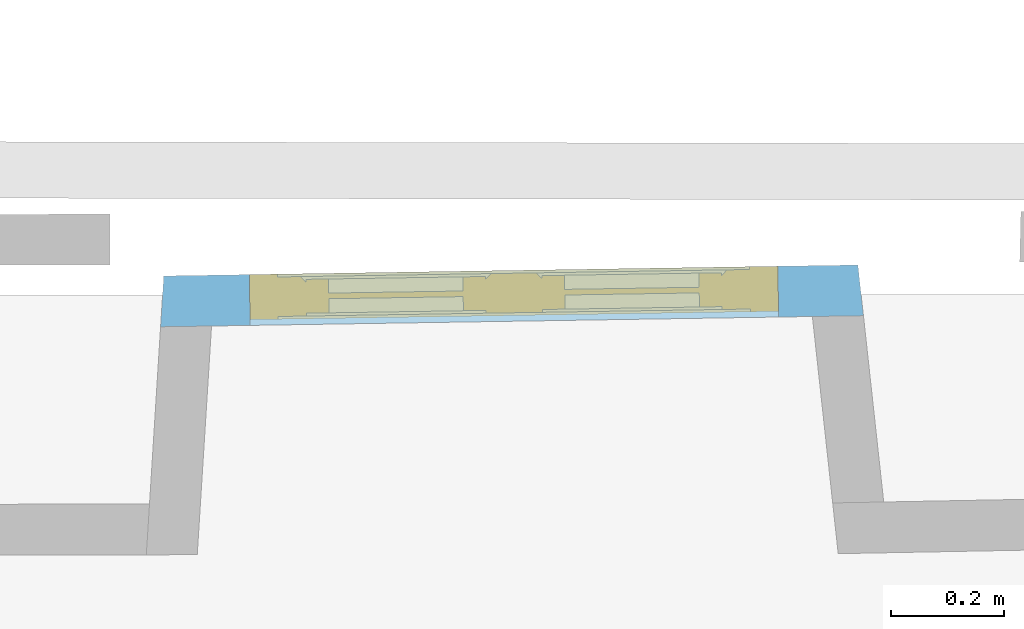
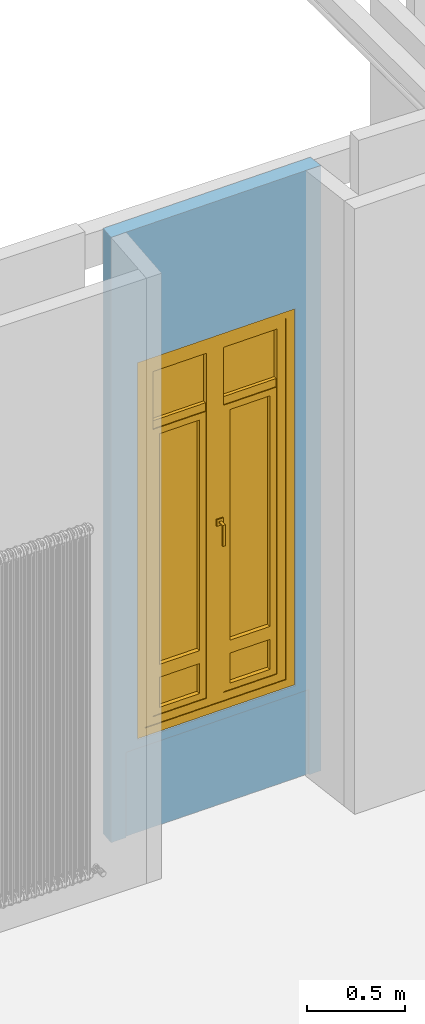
# One storey, part 46 of 66: 1 window, 2 openings, plus 1 element that does not belong to this part.
"""IFC2X3 building model written with IfcOpenShell, lengths in centimetres."""

import ifcopenshell
import ifcopenshell.guid

model = None  # the IFC model being written
_history = None  # IfcOwnerHistory: only IFC2X3 demands one
_inside = {}  # id of a spatial element -> (the spatial element, [elements in it])
_under = {}  # id of a project, library or spatial element -> (it, [spatial elements below it])
_declared = {}  # id of a project -> (the project, [libraries it declares])
_typed = {}  # id of a type object -> (the type object, [elements of that type])
_made_of = {}  # id of a material, layer set ... -> (it, [elements and type objects made of it])


def new_model(schema):
    """Start an empty IFC model of exactly this schema.

    Asked for "IFC4X3", IfcOpenShell would pick the latest addendum, in which some entities
    have other attributes; the version numbers below select the first issue.
    IFC2X3 requires an IfcOwnerHistory on every rooted entity: one is made here for all.
    """
    global model, _history
    if schema == "IFC4X3":
        model = ifcopenshell.file(schema_version=(4, 3, 0, 0))
    else:
        model = ifcopenshell.file(schema=schema)
    _inside.clear()
    _under.clear()
    _declared.clear()
    _typed.clear()
    _made_of.clear()
    _history = None
    if model.schema == "IFC2X3":
        org = make("IfcOrganization", Name="unknown")
        user = make(
            "IfcPersonAndOrganization",
            ThePerson=make("IfcPerson", FamilyName="unknown"),
            TheOrganization=org,
        )
        app = make(
            "IfcApplication",
            ApplicationDeveloper=org,
            Version="unknown",
            ApplicationFullName="unknown",
            ApplicationIdentifier="unknown",
        )
        _history = make(
            "IfcOwnerHistory",
            OwningUser=user,
            OwningApplication=app,
            ChangeAction="ADDED",
            CreationDate=0,
        )
    return model


def make(cls, **values):
    """One entity of the class cls with the attributes given. An attribute that is None is left unset."""
    return model.create_entity(
        cls, **{name: value for name, value in values.items() if value is not None}
    )


def entity(cls, *values):
    """Any entity or typed value of the class cls, its attributes in the order of the schema. None: left unset."""
    e = model.create_entity(cls)
    for i, value in enumerate(values):
        if value is not None:
            e[i] = value
    return e


def rooted(cls, **values):
    """An entity with a GlobalId (a new one), such as an element, a storey or a relation."""
    return make(cls, GlobalId=ifcopenshell.guid.new(), OwnerHistory=_history, **values)


def si_unit(unit_type, name, prefix=None):
    """IfcSIUnit, for example si_unit("LENGTHUNIT", "METRE", prefix="MILLI")."""
    return make("IfcSIUnit", UnitType=unit_type, Prefix=prefix, Name=name)


def converted_unit(unit_type, name, factor, base, dimensions=None, offset=None):
    """IfcConversionBasedUnit, such as the inch: factor (a typed value) times the base unit."""
    return make(
        "IfcConversionBasedUnit"
        if offset is None
        else "IfcConversionBasedUnitWithOffset",
        ConversionOffset=offset,
        Dimensions=None
        if dimensions is None
        else entity("IfcDimensionalExponents", *dimensions),
        UnitType=unit_type,
        Name=name,
        ConversionFactor=make(
            "IfcMeasureWithUnit", ValueComponent=factor, UnitComponent=base
        ),
    )


def assignment(units):
    """IfcUnitAssignment: the units of a project."""
    return None if units is None else make("IfcUnitAssignment", Units=units)


def point(xyz):
    """IfcCartesianPoint."""
    return None if xyz is None else make("IfcCartesianPoint", Coordinates=xyz)


def direction(xyz):
    """IfcDirection."""
    return None if xyz is None else make("IfcDirection", DirectionRatios=xyz)


def frame(location, z_axis=None, x_axis=None):
    """IfcAxis2Placement3D, a coordinate frame: its origin and axes. An axis left out is left unset."""
    return make(
        "IfcAxis2Placement3D",
        Location=point(location),
        Axis=direction(z_axis),
        RefDirection=direction(x_axis),
    )


def origin():
    """The frame at (0, 0, 0) with its axes left unset."""
    return frame((0.0, 0.0, 0.0))


def origin_with_axes():
    """The frame at (0, 0, 0) with the z axis (0, 0, 1) and the x axis (1, 0, 0) written out."""
    return frame((0.0, 0.0, 0.0), z_axis=(0.0, 0.0, 1.0), x_axis=(1.0, 0.0, 0.0))


def place(relative_to, where):
    """IfcLocalPlacement: puts the frame where relative to a parent placement (None: the world)."""
    return make(
        "IfcLocalPlacement", PlacementRelTo=relative_to, RelativePlacement=where
    )


def context(
    kind, dimensions, precision=None, world=None, true_north=None, identifier=None
):
    """IfcGeometricRepresentationContext, for example the 3D "Model" context."""
    return make(
        "IfcGeometricRepresentationContext",
        ContextIdentifier=identifier,
        ContextType=kind,
        CoordinateSpaceDimension=dimensions,
        Precision=precision,
        WorldCoordinateSystem=world,
        TrueNorth=true_north,
    )


def subcontext(parent, identifier, kind, view, scale=None):
    """IfcGeometricRepresentationSubContext, for example "Body" below "Model"."""
    return make(
        "IfcGeometricRepresentationSubContext",
        ContextIdentifier=identifier,
        ContextType=kind,
        ParentContext=parent,
        TargetScale=scale,
        TargetView=view,
    )


def project(units=None, contexts=None):
    """IfcProject with its units and contexts."""
    return rooted(
        "IfcProject",
        Name="project",
        RepresentationContexts=contexts,
        UnitsInContext=assignment(units),
    )


def spatial(cls, under=None, at=None, **own):
    """A site, building, storey or space (cls), placed at a placement, below another one or the project."""
    s = rooted(cls, ObjectPlacement=at, **own)
    if under is not None:
        _under.setdefault(under.id(), (under, []))[1].append(s)
    return s


def polyline(points):
    """IfcPolyline through the points."""
    return make("IfcPolyline", Points=[point(p) for p in points])


def outline(outer, holes=None, kind="AREA"):
    """IfcArbitraryClosedProfileDef: a profile drawn as a closed curve; with holes, ...WithVoids."""
    if holes is None:
        return make("IfcArbitraryClosedProfileDef", ProfileType=kind, OuterCurve=outer)
    return make(
        "IfcArbitraryProfileDefWithVoids",
        ProfileType=kind,
        OuterCurve=outer,
        InnerCurves=holes,
    )


def extrude(swept, where, along, depth):
    """IfcExtrudedAreaSolid: the profile swept, set in the frame where, extruded along a direction by depth."""
    return make(
        "IfcExtrudedAreaSolid",
        SweptArea=swept,
        Position=where,
        ExtrudedDirection=direction(along),
        Depth=depth,
    )


def faces_of(points, faces, orient=None, outer=None):
    """IfcFace entities. A face is a list of loops; a loop is a list of indices into points, from 0.

    orient and outer hold one flag for each loop. By default every Orientation is true, the
    first loop of a face is its IfcFaceOuterBound and the others are IfcFaceBound.
    """
    made = []
    for i, loops in enumerate(faces):
        bounds = []
        for j, loop in enumerate(loops):
            is_outer = j == 0 if outer is None else outer[i][j]
            bounds.append(
                make(
                    "IfcFaceOuterBound" if is_outer else "IfcFaceBound",
                    Bound=make("IfcPolyLoop", Polygon=[points[k] for k in loop]),
                    Orientation=True if orient is None else orient[i][j],
                )
            )
        made.append(make("IfcFace", Bounds=bounds))
    return made


def faceted_brep(points, faces, orient=None, outer=None, voids=None):
    """IfcFacetedBrep: a solid bounded by flat faces; with voids (closed shells), ...WithVoids."""
    shared = [point(p) for p in points]
    hull = make("IfcClosedShell", CfsFaces=faces_of(shared, faces, orient, outer))
    if voids is None:
        return make("IfcFacetedBrep", Outer=hull)
    return make(
        "IfcFacetedBrepWithVoids",
        Outer=hull,
        Voids=[
            make(cls, CfsFaces=faces_of(shared, fs, o, b)) for cls, fs, o, b in voids
        ],
    )


def shape(context_of_items, identifier, shape_type, items):
    """IfcShapeRepresentation: the items that make up one representation, for example the "Body"."""
    return make(
        "IfcShapeRepresentation",
        ContextOfItems=context_of_items,
        RepresentationIdentifier=identifier,
        RepresentationType=shape_type,
        Items=items,
    )


def source(mapping_origin, context_of_items, identifier, shape_type, items):
    """IfcRepresentationMap: a shape defined once, which mapped items show again and again."""
    return make(
        "IfcRepresentationMap",
        MappingOrigin=mapping_origin,
        MappedRepresentation=shape(context_of_items, identifier, shape_type, items),
    )


def transform(
    local_origin,
    x_axis=None,
    y_axis=None,
    z_axis=None,
    scale=None,
    scale2=None,
    scale3=None,
    uniform=True,
):
    """IfcCartesianTransformationOperator3D, or its non-uniform kind. x_axis, y_axis, z_axis: its Axis1, 2, 3."""
    if uniform:
        return make(
            "IfcCartesianTransformationOperator3D",
            Axis1=direction(x_axis),
            Axis2=direction(y_axis),
            LocalOrigin=point(local_origin),
            Scale=scale,
            Axis3=direction(z_axis),
        )
    return make(
        "IfcCartesianTransformationOperator3DnonUniform",
        Axis1=direction(x_axis),
        Axis2=direction(y_axis),
        LocalOrigin=point(local_origin),
        Scale=scale,
        Axis3=direction(z_axis),
        Scale2=scale2,
        Scale3=scale3,
    )


def mapped(mapping_source, mapping_target):
    """IfcMappedItem: shows the shape of a source again, moved by a transform."""
    return make(
        "IfcMappedItem", MappingSource=mapping_source, MappingTarget=mapping_target
    )


def material(Name=None, Category=None):
    """IfcMaterial."""
    return make("IfcMaterial", Name=Name, Category=Category)


def material_list(materials):
    """IfcMaterialList."""
    return make("IfcMaterialList", Materials=materials)


def layer(
    of_material, thickness, ventilated=None, Name=None, Category=None, Priority=None
):
    """IfcMaterialLayer: one layer of a wall or slab, of a material (None: an air gap)."""
    return make(
        "IfcMaterialLayer",
        Material=of_material,
        LayerThickness=thickness,
        IsVentilated=ventilated,
        Name=Name,
        Category=Category,
        Priority=Priority,
    )


def layer_set(layers, Name=None):
    """IfcMaterialLayerSet."""
    return make("IfcMaterialLayerSet", MaterialLayers=layers, LayerSetName=Name)


def layer_usage(for_layer_set, set_direction, sense, offset, extent=None):
    """IfcMaterialLayerSetUsage: how a layer set lies in its element."""
    return make(
        "IfcMaterialLayerSetUsage",
        ForLayerSet=for_layer_set,
        LayerSetDirection=set_direction,
        DirectionSense=sense,
        OffsetFromReferenceLine=offset,
        ReferenceExtent=extent,
    )


def made_of(thing, what):
    """Note that an element or type object is made of a material, layer set ...; save() writes the relation."""
    if what is not None:
        _made_of.setdefault(what.id(), (what, []))[1].append(thing)
    return thing


def type_object(cls, material=None, **own):
    """A type object (cls), such as IfcWallType, which elements share."""
    return made_of(rooted(cls, **own), material)


def element(
    cls,
    number,
    at=None,
    inside=None,
    cuts=None,
    type_object=None,
    material=None,
    context=None,
    identifier="Body",
    shape_type=None,
    held_by="IfcProductDefinitionShape",
    body=None,
    shapes=None,
    **own,
):
    """One element of the class cls, such as IfcWall. Its Tag is "e" and its number.

    at: its placement. inside: the storey or other place that contains it. cuts: it is an
    opening in that element (IfcRelVoidsElement). A single representation is given by context,
    identifier, shape_type and body (its items); several are given by shapes. held_by: the class
    of the entity that holds the representations. save() writes the other relations.
    """
    e = rooted(cls, Tag="e%d" % number, ObjectPlacement=at, **own)
    if body is not None:
        shapes = [shape(context, identifier, shape_type, body)]
    if shapes is not None:
        e.Representation = make(held_by, Representations=shapes)
    if inside is not None:
        _inside.setdefault(inside.id(), (inside, []))[1].append(e)
    if cuts is not None:
        rooted(
            "IfcRelVoidsElement", RelatingBuildingElement=cuts, RelatedOpeningElement=e
        )
    if type_object is not None:
        _typed.setdefault(type_object.id(), (type_object, []))[1].append(e)
    return made_of(e, material)


def fill(opening, filler):
    """IfcRelFillsElement: the door or window that sits in an opening."""
    return rooted(
        "IfcRelFillsElement",
        RelatingOpeningElement=opening,
        RelatedBuildingElement=filler,
    )


def aggregate(whole, parts):
    """IfcRelAggregates: a whole, such as a stair, and the parts it consists of."""
    return rooted("IfcRelAggregates", RelatingObject=whole, RelatedObjects=parts)


def save(model, path):
    """Write the relations noted so far, then the file.

    IfcRelAggregates (storeys below a building ...), IfcRelContainedInSpatialStructure (elements
    in a storey), IfcRelDefinesByType, IfcRelAssociatesMaterial and IfcRelDeclares: one each for
    every whole, place, type object, material and project.
    """
    for whole, parts in _under.values():
        aggregate(whole, parts)
    for where, things in _inside.values():
        rooted(
            "IfcRelContainedInSpatialStructure",
            RelatedElements=things,
            RelatingStructure=where,
        )
    for kind, things in _typed.values():
        rooted("IfcRelDefinesByType", RelatedObjects=things, RelatingType=kind)
    for what, things in _made_of.values():
        rooted("IfcRelAssociatesMaterial", RelatedObjects=things, RelatingMaterial=what)
    for by, libraries in _declared.values():
        rooted("IfcRelDeclares", RelatingContext=by, RelatedDefinitions=libraries)
    model.write(path)


model = new_model("IFC2X3")

# Units and contexts
model_context = context("Model", 3, precision=0.0001, world=origin(), true_north=direction((0.225632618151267, 0.974212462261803, 0.0)))
body_context = subcontext(model_context, "Body", "Model", "MODEL_VIEW")
footprint_context = subcontext(model_context, "FootPrint", "Model", "MODEL_VIEW")
profile_context = subcontext(model_context, "Profile", "Model", "MODEL_VIEW")
ifc_project = project(units=[si_unit("LENGTHUNIT", "METRE", prefix="CENTI"), si_unit("AREAUNIT", "SQUARE_METRE", prefix="CENTI"), si_unit("VOLUMEUNIT", "CUBIC_METRE", prefix="CENTI"), converted_unit("PLANEANGLEUNIT", "DEGREE", entity("IfcRatioMeasure", 0.0174532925), si_unit("PLANEANGLEUNIT", "RADIAN"), dimensions=[0, 0, 0, 0, 0, 0, 0])], contexts=[model_context])

# Site, building, storey
site_placement = place(None, origin_with_axes())
site = spatial("IfcSite", under=ifc_project, at=site_placement, Name="Default Site", CompositionType="ELEMENT")
building_placement = place(site_placement, origin_with_axes())
building = spatial("IfcBuilding", under=site, at=building_placement, Name="Default Building", CompositionType="ELEMENT")
storey_placement = place(building_placement, frame((0.0, 0.0, 477.795358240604), z_axis=(0.0, 0.0, 1.0), x_axis=(1.0, 0.0, 0.0)))
storey = spatial("IfcBuildingStorey", under=building, at=storey_placement, Name="Niveau 1", CompositionType="ELEMENT", Elevation=477.795358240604)

# Wall, openings, window
ifc_material_1 = material(Name="<aucun>")
ifc_layer = layer(ifc_material_1, 9.0)
ifc_layer_set = layer_set([ifc_layer], Name="default")
ifc_layer_usage = layer_usage(ifc_layer_set, "AXIS2", "POSITIVE", -4.5)
wall_type = type_object("IfcWallType", Name="default 90", PredefinedType="NOTDEFINED", material=ifc_layer_set)
wall_placement = place(storey_placement, frame((28.5653999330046, 593.143177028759, 0.0128503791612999), z_axis=(0.0, 0.0, 1.0), x_axis=(0.999874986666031, 0.0158117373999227, 0.0)))
wall = element("IfcWallStandardCase", 1, at=wall_placement, inside=storey, type_object=wall_type, material=ifc_layer_usage, Name="Enveloppe 92634", context=body_context, shape_type="SweptSolid", body=[
    extrude(outline(polyline([(-4.86686457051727, -4.50000000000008), (119.622427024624, -4.50000000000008), (118.786517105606, 4.49999999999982), (-4.16078970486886, 4.49999999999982), (-4.86686457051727, -4.50000000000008)])), frame((0.0, 0.0, -8.88178419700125e-14), z_axis=(0.0, 0.0, 1.0), x_axis=(1.0, 0.0, 0.0)), (0.0, 0.0, 1.0), 376.102165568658),
])
opening_1_placement = place(wall_placement, frame((3.99201043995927, -1.13686837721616e-13, 1.77635683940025e-13), z_axis=(0.0, 0.0, 1.0), x_axis=(-1.0, 2.60208521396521e-16, 0.0)))
cartesian_point_1 = entity("IfcCartesianPoint", [0.0, 0.0, 52.9999999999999])
cartesian_point_2 = entity("IfcCartesianPoint", [-108.569412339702, -4.49999999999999])
element("IfcOpeningElement", 2, at=opening_1_placement, cuts=wall, Name="Baie 103201", ObjectType="Recess", shapes=[
    shape(body_context, "Body", "Brep", [faceted_brep([(8.88544016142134e-07, 24.4999869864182, -1.92276757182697e-05), (-108.569413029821, 24.4999870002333, -1.92276757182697e-05), (-108.569413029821, 24.4999870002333, 53.0000017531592), (8.88544016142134e-07, 24.4999869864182, 53.0000017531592), (8.85871851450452e-07, 3.49998051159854, 53.0000017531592), (8.85871851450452e-07, 3.49998051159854, -1.92276757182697e-05), (-1.44246870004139e-07, 3.49998051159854, -1.92276757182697e-05), (-108.569414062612, 3.49999012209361, -1.92276757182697e-05), (-108.569413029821, 24.4999965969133, -1.92276757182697e-05), (-108.569413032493, 3.49999012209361, -1.92276757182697e-05), (-108.569413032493, 3.49999012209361, 53.0000017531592), (-108.569413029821, 24.4999965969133, 53.0000017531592), (-108.569414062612, 3.49999012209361, 53.0000017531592), (-1.44246870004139e-07, 3.49998051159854, 53.0000017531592), (-1.44246868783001e-07, 3.4999901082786, -1.92276757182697e-05), (-1.44246868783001e-07, 3.4999901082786, 53.0000017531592)], [[[0, 1, 2, 3]], [[3, 4, 5, 0]], [[0, 6, 7, 8]], [[8, 9, 10, 11]], [[11, 12, 13, 3]], [[12, 7, 14, 15]]])]),
    shape(profile_context, "Profile", "GeometricCurveSet", [entity("IfcGeometricCurveSet", [entity("IfcPolyline", [cartesian_point_1, entity("IfcCartesianPoint", [0.0, 0.0, -8.88178419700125e-14]), entity("IfcCartesianPoint", [-108.569412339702, 0.0, -8.88178419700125e-14]), entity("IfcCartesianPoint", [-108.569412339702, 0.0, 52.9999999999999]), cartesian_point_1])])]),
    shape(footprint_context, "FootPrint", "GeometricCurveSet", [entity("IfcGeometricCurveSet", [entity("IfcPolyline", [cartesian_point_2, entity("IfcCartesianPoint", [5.55111512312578e-15, -4.49999999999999]), entity("IfcCartesianPoint", [5.55111512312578e-15, 4.49999999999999]), entity("IfcCartesianPoint", [-108.569412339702, 4.49999999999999]), cartesian_point_2])])]),
])
opening_2_placement = place(wall_placement, frame((10.9920104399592, -1.13686837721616e-13, 58.1871496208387), z_axis=(0.0, 0.0, 1.0), x_axis=(-1.0, 2.60208521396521e-16, 0.0)))
cartesian_point_3 = entity("IfcCartesianPoint", [0.0, 0.0, 234.405156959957])
cartesian_point_4 = entity("IfcCartesianPoint", [-93.6147419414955, -4.49999999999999])
opening_2 = element("IfcOpeningElement", 3, at=opening_2_placement, cuts=wall, Name="4294966424_11", ObjectType="Opening", shapes=[
    shape(body_context, "Body", "SweptSolid", [extrude(outline(polyline([(-5.55111512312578e-15, 234.405156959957), (-5.55111512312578e-15, 0.0), (93.6147419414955, 0.0), (93.6147419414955, 234.405156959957), (-5.55111512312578e-15, 234.405156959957)])), frame((0.0, -14.5, 0.0), z_axis=(0.0, 1.0, 0.0), x_axis=(-1.0, 0.0, 0.0)), (0.0, 0.0, 1.0), 29.0)]),
    shape(profile_context, "Profile", "GeometricCurveSet", [entity("IfcGeometricCurveSet", [entity("IfcPolyline", [cartesian_point_3, entity("IfcCartesianPoint", [0.0, 0.0, 0.0]), entity("IfcCartesianPoint", [-93.6147419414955, 0.0, 0.0]), entity("IfcCartesianPoint", [-93.6147419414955, 0.0, 234.405156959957]), cartesian_point_3])])]),
    shape(footprint_context, "FootPrint", "GeometricCurveSet", [entity("IfcGeometricCurveSet", [entity("IfcPolyline", [cartesian_point_4, entity("IfcCartesianPoint", [5.55111512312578e-15, -4.49999999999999]), entity("IfcCartesianPoint", [5.55111512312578e-15, 4.49999999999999]), entity("IfcCartesianPoint", [-93.6147419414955, 4.49999999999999]), cartesian_point_4])])]),
])
ifc_material_2 = material(Name="Transparent")
ifc_material_3 = material(Name="Bleu france")
ifc_material_4 = material(Name="Noyer 01")
ifc_material_5 = material(Name="Aluminium satiné")
ifc_material_list = material_list([ifc_material_2, ifc_material_3, ifc_material_4, ifc_material_5])
window_style = type_object("IfcWindowStyle", Name="FN[R] 2VB[2V] MM", ConstructionType="NOTDEFINED", OperationType="NOTDEFINED", ParameterTakesPrecedence=False, Sizeable=False, material=ifc_material_list)
shared_shape = source(origin_with_axes(), body_context, "Body", "Brep", [
    faceted_brep([(-41.8073713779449, 229.405164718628, -3.99999991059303), (-41.8073713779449, 229.405164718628, 3.99999991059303), (-41.8073713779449, 5.00000007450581, 3.99999991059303), (-41.8073713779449, 5.00000007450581, -3.99999991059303), (-46.8073695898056, 234.405159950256, 3.99999991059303), (-46.8073695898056, 8.88178419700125e-14, 3.99999991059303), (-46.8073695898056, 234.405159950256, -3.99999991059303), (-46.8073695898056, 8.88178419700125e-14, -3.99999991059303), (41.8073713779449, 5.0000000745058, 3.99999991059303), (41.8073713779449, 5.0000000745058, -3.99999991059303), (46.8073695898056, 8.88178419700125e-14, 3.99999991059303), (41.8073713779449, 5.00000007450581, 3.99999991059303), (46.8073695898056, 8.88178419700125e-14, -3.99999991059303), (41.8073713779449, 5.00000007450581, -3.99999991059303), (41.807371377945, 229.405164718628, 3.99999991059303), (41.807371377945, 229.405164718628, -3.99999991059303), (46.8073695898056, 234.405159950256, 3.99999991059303), (41.8073713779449, 229.405164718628, 3.99999991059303), (46.8073695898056, 234.405159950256, -3.99999991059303), (41.8073713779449, 229.405164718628, -3.99999991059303)], [[[0, 1, 2, 3]], [[1, 4, 5, 2]], [[4, 6, 7, 5]], [[6, 0, 3, 7]], [[3, 2, 8, 9]], [[2, 5, 10, 11]], [[5, 7, 12, 10]], [[7, 3, 13, 12]], [[13, 11, 14, 15]], [[11, 10, 16, 17]], [[10, 12, 18, 16]], [[12, 13, 19, 18]], [[19, 17, 1, 0]], [[17, 16, 4, 1]], [[16, 18, 6, 4]], [[18, 19, 0, 6]]]),
    faceted_brep([(-37.80737221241, 225.405168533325, -3.50000001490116), (-36.8073712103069, 224.405145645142, -2.49999901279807), (-36.8073712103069, 10.0000001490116, -2.49999901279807), (-37.80737221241, 9.00000035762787, -3.50000001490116), (-36.8073701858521, 224.405145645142, -2.5000000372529), (-36.8073701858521, 224.405145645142, 3.50000001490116), (-36.8073701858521, 10.0000001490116, 3.50000001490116), (-36.8073701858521, 10.0000001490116, -2.5000000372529), (-41.8073713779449, 229.405164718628, 3.50000001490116), (-41.8073713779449, 5.00000007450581, 3.50000001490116), (-41.8073713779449, 229.405164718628, -3.50000001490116), (-41.8073713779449, 5.00000007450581, -3.50000001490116), (-36.8073701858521, 10.0000002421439, -2.50000013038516), (-5.00000007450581, 10.0000002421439, -2.50000013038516), (-3.99999991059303, 9.00000035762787, -3.50000001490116), (-5.00000007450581, 10.0000001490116, 3.50000001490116), (-5.00000007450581, 10.0000001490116, -2.5000000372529), (1.66533453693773e-14, 5.00000007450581, 3.50000001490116), (1.66533453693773e-14, 5.00000007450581, -3.50000001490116), (-4.99999998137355, 10.0000001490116, -2.49999994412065), (-4.99999998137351, 224.405145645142, -2.4999999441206), (-3.99999991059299, 225.405168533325, -3.50000001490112), (-5.00000007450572, 224.405145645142, 3.50000001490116), (-5.00000007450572, 224.405145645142, -2.5000000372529), (2.77555756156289e-14, 229.405164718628, 3.50000001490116), (-5.00000007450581, 224.405145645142, 3.50000001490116), (2.77555761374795e-14, 229.405164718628, -3.50000001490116), (2.77555761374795e-14, 229.405164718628, 3.50000001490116), (-3.99999991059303, 225.405168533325, -3.50000001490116), (2.77555756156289e-14, 229.405164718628, -3.50000001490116), (-5.00000007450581, 224.405157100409, -2.49998858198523), (-36.8073701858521, 224.405157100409, -2.49998858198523), (-5.00000007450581, 224.405145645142, -2.5000000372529)], [[[0, 1, 2, 3]], [[4, 5, 6, 7]], [[5, 8, 9, 6]], [[8, 10, 11, 9]], [[10, 0, 3, 11]], [[3, 12, 13, 14]], [[7, 6, 15, 16]], [[6, 9, 17, 15]], [[9, 11, 18, 17]], [[11, 3, 14, 18]], [[14, 19, 20, 21]], [[16, 15, 22, 23]], [[15, 17, 24, 25]], [[17, 18, 26, 27]], [[18, 14, 28, 29]], [[28, 30, 31, 0]], [[32, 25, 5, 4]], [[25, 24, 8, 5]], [[24, 29, 10, 8]], [[29, 28, 0, 10]]]),
    faceted_brep([(-5.00000007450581, 224.405145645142, -0.499999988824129), (-5.00000007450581, 192.994379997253, -0.499999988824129), (-36.8073701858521, 192.994379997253, -0.499999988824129), (-36.8073701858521, 224.405145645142, -0.499999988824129), (-36.8073701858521, 224.405145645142, 0.499999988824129), (-36.8073701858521, 192.994379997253, 0.499999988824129), (-5.00000007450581, 192.994379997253, 0.499999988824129), (-5.00000007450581, 224.405145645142, 0.499999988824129)], [[[0, 1, 2, 3]], [[4, 5, 6, 7]], [[3, 2, 5, 4]], [[2, 1, 6, 5]], [[1, 0, 7, 6]], [[0, 3, 4, 7]]]),
    faceted_brep([(-5.00000007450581, 187.994384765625, 2.5000000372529), (-5.00000007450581, 187.994384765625, -2.5000000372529), (-5.00000007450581, 192.994379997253, -2.5000000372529), (-5.00000007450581, 192.994379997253, 2.5000000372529), (-36.8073701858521, 192.994379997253, 2.5000000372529), (-36.8073701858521, 192.994379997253, -2.5000000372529), (-36.8073701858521, 187.994384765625, -2.5000000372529), (-36.8073701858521, 187.994384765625, 2.5000000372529)], [[[0, 1, 2, 3]], [[4, 5, 6, 7]], [[3, 2, 5, 4]], [[2, 1, 6, 5]], [[1, 0, 7, 6]], [[0, 3, 4, 7]]]),
    faceted_brep([(-32.8073710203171, 183.994388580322, -2.99999993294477), (-32.8073710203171, 183.994388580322, 2.99999993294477), (-32.8073710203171, 40.6991571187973, 2.99999993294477), (-32.8073710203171, 40.6991571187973, -2.99999993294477), (-36.8073701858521, 187.994384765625, 2.99999993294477), (-36.8073701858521, 36.6991579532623, 2.99999993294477), (-36.8073701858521, 187.994384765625, -2.99999993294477), (-36.8073701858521, 36.6991579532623, -2.99999993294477), (-9.00000035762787, 40.6991571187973, 2.99999993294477), (-9.00000035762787, 40.6991571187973, -2.99999993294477), (-5.00000007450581, 36.6991579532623, 2.99999993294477), (-5.00000007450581, 36.6991579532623, -2.99999993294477), (-9.00000035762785, 183.994388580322, 2.99999993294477), (-9.00000035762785, 183.994388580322, -2.99999993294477), (-5.00000007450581, 187.994384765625, 2.99999993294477), (-9.00000035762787, 183.994388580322, 2.99999993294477), (-5.0000000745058, 187.994384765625, -2.99999993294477), (-5.0000000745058, 187.994384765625, 2.99999993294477), (-9.00000035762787, 183.994388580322, -2.99999993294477), (-5.00000007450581, 187.994384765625, -2.99999993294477)], [[[0, 1, 2, 3]], [[1, 4, 5, 2]], [[4, 6, 7, 5]], [[6, 0, 3, 7]], [[3, 2, 8, 9]], [[2, 5, 10, 8]], [[5, 7, 11, 10]], [[7, 3, 9, 11]], [[9, 8, 12, 13]], [[8, 10, 14, 15]], [[10, 11, 16, 17]], [[11, 9, 18, 19]], [[18, 15, 1, 0]], [[15, 14, 4, 1]], [[14, 19, 6, 4]], [[19, 18, 0, 6]]]),
    faceted_brep([(-9.00000035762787, 183.994388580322, -0.499999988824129), (-9.00000035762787, 40.6991571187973, -0.499999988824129), (-32.8073710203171, 40.6991571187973, -0.499999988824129), (-32.8073710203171, 183.994388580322, -0.499999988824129), (-32.8073710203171, 183.994388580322, 0.499999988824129), (-32.8073710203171, 40.6991571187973, 0.499999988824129), (-9.00000035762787, 40.6991571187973, 0.499999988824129), (-9.00000035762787, 183.994388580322, 0.499999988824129), (-9.00000035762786, 183.994388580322, -0.499999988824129), (-9.00000035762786, 183.994388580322, 0.499999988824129)], [[[0, 1, 2, 3]], [[4, 5, 6, 7]], [[3, 2, 5, 4]], [[2, 1, 6, 5]], [[1, 8, 9, 6]], [[0, 3, 4, 7]]]),
    faceted_brep([(-32.8073710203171, 32.6991587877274, -2.99999993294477), (-32.8073710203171, 32.6991587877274, 2.99999993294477), (-32.8073710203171, 14.0000000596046, 2.99999993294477), (-32.8073710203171, 14.0000000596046, -2.99999993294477), (-36.8073701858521, 36.6991579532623, 2.99999993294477), (-36.8073701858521, 10.0000001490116, 2.99999993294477), (-36.8073701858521, 36.6991579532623, -2.99999993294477), (-36.8073701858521, 10.0000001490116, -2.99999993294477), (-9.00000035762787, 14.0000000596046, 2.99999993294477), (-9.00000035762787, 14.0000000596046, -2.99999993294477), (-5.00000007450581, 10.0000001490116, 2.99999993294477), (-5.00000007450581, 10.0000001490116, -2.99999993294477), (-9.00000035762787, 32.6991587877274, 2.99999993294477), (-9.00000035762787, 32.6991587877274, -2.99999993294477), (-5.00000007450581, 36.6991579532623, 2.99999993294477), (-5.00000007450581, 36.6991579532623, -2.99999993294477)], [[[0, 1, 2, 3]], [[1, 4, 5, 2]], [[4, 6, 7, 5]], [[6, 0, 3, 7]], [[3, 2, 8, 9]], [[2, 5, 10, 8]], [[5, 7, 11, 10]], [[7, 3, 9, 11]], [[9, 8, 12, 13]], [[8, 10, 14, 12]], [[10, 11, 15, 14]], [[11, 9, 13, 15]], [[13, 12, 1, 0]], [[12, 14, 4, 1]], [[14, 15, 6, 4]], [[15, 13, 0, 6]]]),
    faceted_brep([(-9.00000035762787, 32.6991587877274, -0.499999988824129), (-9.00000035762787, 14.0000000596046, -0.499999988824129), (-32.8073710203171, 14.0000000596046, -0.499999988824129), (-32.8073710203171, 32.6991587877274, -0.499999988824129), (-32.8073710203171, 32.6991587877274, 0.499999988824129), (-32.8073710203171, 14.0000000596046, 0.499999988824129), (-9.00000035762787, 14.0000000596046, 0.499999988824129), (-9.00000035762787, 32.6991587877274, 0.499999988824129)], [[[0, 1, 2, 3]], [[4, 5, 6, 7]], [[3, 2, 5, 4]], [[2, 1, 6, 5]], [[1, 0, 7, 6]], [[0, 3, 4, 7]]]),
    faceted_brep([(3.99999991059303, 225.405168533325, -3.50000001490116), (4.99999998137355, 224.405145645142, -2.49999994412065), (4.99999998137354, 10.0000001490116, -2.49999994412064), (3.99999991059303, 9.00000035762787, -3.50000001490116), (5.00000007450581, 224.405145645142, -2.5000000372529), (5.00000007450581, 224.405145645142, 3.50000001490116), (5.0000000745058, 10.0000001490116, 3.50000001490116), (5.0000000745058, 10.0000001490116, -2.5000000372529), (2.77555756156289e-14, 229.405164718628, 3.50000001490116), (1.66533453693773e-14, 5.00000007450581, 3.50000001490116), (5.00000007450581, 10.0000001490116, 3.50000001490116), (2.77555756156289e-14, 229.405164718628, -3.50000001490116), (1.66533448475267e-14, 5.00000007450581, -3.50000001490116), (1.66533448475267e-14, 5.00000007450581, 3.50000001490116), (1.66533453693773e-14, 5.00000007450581, -3.50000001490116), (5.00000007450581, 10.0000002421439, -2.50000013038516), (36.8073701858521, 10.0000002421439, -2.50000013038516), (37.80737221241, 9.00000035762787, -3.50000001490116), (5.00000007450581, 10.0000001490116, -2.5000000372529), (36.8073701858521, 10.0000001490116, 3.50000001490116), (36.8073701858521, 10.0000001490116, -2.5000000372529), (41.8073713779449, 5.00000007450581, 3.50000001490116), (41.8073713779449, 5.00000007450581, -3.50000001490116), (36.8073712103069, 10.0000001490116, -2.49999901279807), (36.8073712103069, 224.405145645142, -2.49999901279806), (37.80737221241, 225.405168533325, -3.50000001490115), (36.8073701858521, 224.405145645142, 3.50000001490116), (36.8073701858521, 224.405145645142, -2.5000000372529), (41.8073713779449, 229.405164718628, 3.50000001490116), (41.8073713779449, 229.405164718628, -3.50000001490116), (37.80737221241, 225.405168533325, -3.50000001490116), (36.8073701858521, 224.405157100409, -2.49998858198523), (5.00000007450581, 224.405157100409, -2.49998858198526), (3.99999991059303, 225.405168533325, -3.50000001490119)], [[[0, 1, 2, 3]], [[4, 5, 6, 7]], [[5, 8, 9, 10]], [[8, 11, 12, 13]], [[11, 0, 3, 14]], [[3, 15, 16, 17]], [[18, 10, 19, 20]], [[10, 9, 21, 19]], [[9, 14, 22, 21]], [[14, 3, 17, 22]], [[17, 23, 24, 25]], [[20, 19, 26, 27]], [[19, 21, 28, 26]], [[21, 22, 29, 28]], [[22, 17, 30, 29]], [[30, 31, 32, 33]], [[27, 26, 5, 4]], [[26, 28, 8, 5]], [[28, 29, 11, 8]], [[29, 30, 0, 11]]]),
    faceted_brep([(4.50000017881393, 119.20257806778, 3.50000001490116), (4.50000017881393, 115.202581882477, 3.50000001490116), (0.499999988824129, 115.202581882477, 3.50000001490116), (0.499999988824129, 119.20257806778, 3.50000001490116), (0.499999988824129, 119.20257806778, 4.30000014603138), (0.499999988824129, 115.202581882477, 4.30000014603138), (4.50000017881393, 115.202581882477, 4.30000014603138), (4.50000017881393, 119.20257806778, 4.30000014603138)], [[[0, 1, 2, 3]], [[4, 5, 6, 7]], [[3, 2, 5, 4]], [[2, 1, 6, 5]], [[1, 0, 7, 6]], [[0, 3, 4, 7]]]),
    faceted_brep([(3.24999988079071, 117.702579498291, 4.30000014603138), (3.24999988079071, 116.702580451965, 4.30000014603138), (1.75000000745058, 116.702580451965, 4.30000014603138), (1.75000000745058, 117.702579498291, 4.30000014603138), (1.75000000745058, 117.702579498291, 8.29999968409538), (1.75000000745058, 116.702580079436, 7.30000026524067), (3.24999988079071, 116.702580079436, 7.30000026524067), (3.24999988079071, 117.702579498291, 8.29999968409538), (1.75000000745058, 116.702580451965, 7.29999989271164), (3.24999988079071, 116.702580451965, 7.29999989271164)], [[[0, 1, 2, 3]], [[4, 5, 6, 7]], [[3, 2, 8, 4]], [[2, 1, 9, 8]], [[1, 0, 7, 9]], [[0, 3, 4, 7]]]),
    faceted_brep([(3.24999988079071, 117.702579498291, 8.29999968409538), (3.24999988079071, 116.702580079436, 7.30000026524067), (1.75000000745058, 116.702580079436, 7.30000026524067), (1.75000000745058, 117.702579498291, 8.29999968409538), (1.75000000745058, 104.702579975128, 8.29999968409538), (1.75000000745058, 104.702579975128, 7.29999989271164), (3.24999988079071, 104.702579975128, 7.29999989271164), (3.24999988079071, 104.702579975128, 8.29999968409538), (1.75000000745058, 116.702580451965, 7.29999989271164), (3.24999988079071, 116.702580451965, 7.29999989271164)], [[[0, 1, 2, 3]], [[4, 5, 6, 7]], [[3, 8, 5, 4]], [[8, 9, 6, 5]], [[9, 0, 7, 6]], [[0, 3, 4, 7]]]),
    faceted_brep([(36.8073701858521, 224.405145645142, -0.499999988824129), (36.8073701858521, 192.994379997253, -0.499999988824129), (5.00000007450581, 192.994379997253, -0.499999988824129), (5.00000007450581, 224.405145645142, -0.499999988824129), (5.00000007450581, 224.405145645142, 0.499999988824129), (5.00000007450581, 192.994379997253, 0.499999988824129), (36.8073701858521, 192.994379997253, 0.499999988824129), (36.8073701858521, 224.405145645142, 0.499999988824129)], [[[0, 1, 2, 3]], [[4, 5, 6, 7]], [[3, 2, 5, 4]], [[2, 1, 6, 5]], [[1, 0, 7, 6]], [[0, 3, 4, 7]]]),
    faceted_brep([(36.8073701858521, 187.994384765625, 2.5000000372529), (36.8073701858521, 187.994384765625, -2.5000000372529), (36.8073701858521, 192.994379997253, -2.5000000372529), (36.8073701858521, 192.994379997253, 2.5000000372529), (5.00000007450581, 192.994379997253, 2.5000000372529), (5.00000007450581, 192.994379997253, -2.5000000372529), (5.00000007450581, 187.994384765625, -2.5000000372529), (5.00000007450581, 187.994384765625, 2.5000000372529)], [[[0, 1, 2, 3]], [[4, 5, 6, 7]], [[3, 2, 5, 4]], [[2, 1, 6, 5]], [[1, 0, 7, 6]], [[0, 3, 4, 7]]]),
    faceted_brep([(9.00000035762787, 183.994388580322, -2.99999993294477), (9.00000035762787, 183.994388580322, 2.99999993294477), (9.00000035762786, 40.6991571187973, 2.99999993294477), (9.00000035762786, 40.6991571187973, -2.99999993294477), (5.00000007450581, 187.994384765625, 2.99999993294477), (5.00000007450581, 36.6991579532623, 2.99999993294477), (9.00000035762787, 40.6991571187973, 2.99999993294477), (5.00000007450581, 187.994384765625, -2.99999993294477), (5.0000000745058, 36.6991579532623, -2.99999993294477), (5.0000000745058, 36.6991579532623, 2.99999993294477), (9.00000035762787, 40.6991571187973, -2.99999993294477), (5.00000007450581, 36.6991579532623, -2.99999993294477), (32.8073710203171, 40.6991571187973, 2.99999993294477), (32.8073710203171, 40.6991571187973, -2.99999993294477), (36.8073701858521, 36.6991579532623, 2.99999993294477), (36.8073701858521, 36.6991579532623, -2.99999993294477), (32.8073710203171, 183.994388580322, 2.99999993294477), (32.8073710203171, 183.994388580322, -2.99999993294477), (36.8073701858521, 187.994384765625, 2.99999993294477), (36.8073701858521, 187.994384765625, -2.99999993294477)], [[[0, 1, 2, 3]], [[1, 4, 5, 6]], [[4, 7, 8, 9]], [[7, 0, 10, 11]], [[10, 6, 12, 13]], [[6, 5, 14, 12]], [[5, 11, 15, 14]], [[11, 10, 13, 15]], [[13, 12, 16, 17]], [[12, 14, 18, 16]], [[14, 15, 19, 18]], [[15, 13, 17, 19]], [[17, 16, 1, 0]], [[16, 18, 4, 1]], [[18, 19, 7, 4]], [[19, 17, 0, 7]]]),
    faceted_brep([(32.8073710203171, 183.994388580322, -0.499999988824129), (32.8073710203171, 40.6991571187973, -0.499999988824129), (9.00000035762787, 40.6991571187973, -0.499999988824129), (9.00000035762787, 183.994388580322, -0.499999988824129), (9.00000035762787, 183.994388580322, 0.499999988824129), (9.00000035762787, 40.6991571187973, 0.499999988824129), (32.8073710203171, 40.6991571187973, 0.499999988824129), (32.8073710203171, 183.994388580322, 0.499999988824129)], [[[0, 1, 2, 3]], [[4, 5, 6, 7]], [[3, 2, 5, 4]], [[2, 1, 6, 5]], [[1, 0, 7, 6]], [[0, 3, 4, 7]]]),
    faceted_brep([(9.00000035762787, 32.6991587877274, -2.99999993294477), (9.00000035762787, 32.6991587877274, 2.99999993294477), (9.00000035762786, 14.0000000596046, 2.99999993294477), (9.00000035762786, 14.0000000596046, -2.99999993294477), (5.00000007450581, 36.6991579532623, 2.99999993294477), (5.00000007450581, 10.0000001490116, 2.99999993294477), (9.00000035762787, 14.0000000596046, 2.99999993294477), (5.00000007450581, 36.6991579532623, -2.99999993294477), (5.0000000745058, 10.0000001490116, -2.99999993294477), (5.0000000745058, 10.0000001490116, 2.99999993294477), (9.00000035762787, 14.0000000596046, -2.99999993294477), (5.00000007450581, 10.0000001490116, -2.99999993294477), (32.8073710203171, 14.0000000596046, 2.99999993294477), (32.8073710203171, 14.0000000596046, -2.99999993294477), (36.8073701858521, 10.0000001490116, 2.99999993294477), (36.8073701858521, 10.0000001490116, -2.99999993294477), (32.8073710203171, 32.6991587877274, 2.99999993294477), (32.8073710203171, 32.6991587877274, -2.99999993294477), (36.8073701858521, 36.6991579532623, 2.99999993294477), (36.8073701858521, 36.6991579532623, -2.99999993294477)], [[[0, 1, 2, 3]], [[1, 4, 5, 6]], [[4, 7, 8, 9]], [[7, 0, 10, 11]], [[10, 6, 12, 13]], [[6, 5, 14, 12]], [[5, 11, 15, 14]], [[11, 10, 13, 15]], [[13, 12, 16, 17]], [[12, 14, 18, 16]], [[14, 15, 19, 18]], [[15, 13, 17, 19]], [[17, 16, 1, 0]], [[16, 18, 4, 1]], [[18, 19, 7, 4]], [[19, 17, 0, 7]]]),
    faceted_brep([(32.8073710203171, 32.6991587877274, -0.499999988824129), (32.8073710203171, 14.0000000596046, -0.499999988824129), (9.00000035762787, 14.0000000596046, -0.499999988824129), (9.00000035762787, 32.6991587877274, -0.499999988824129), (9.00000035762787, 32.6991587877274, 0.499999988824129), (9.00000035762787, 14.0000000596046, 0.499999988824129), (32.8073710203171, 14.0000000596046, 0.499999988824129), (32.8073710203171, 32.6991587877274, 0.499999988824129), (9.00000035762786, 14.0000000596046, -0.499999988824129), (9.00000035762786, 14.0000000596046, 0.499999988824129)], [[[0, 1, 2, 3]], [[4, 5, 6, 7]], [[3, 8, 9, 4]], [[2, 1, 6, 5]], [[1, 0, 7, 6]], [[0, 3, 4, 7]]]),
])
window_placement = place(opening_2_placement, frame((-93.6147419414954, -4.5, -7.105427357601e-15), z_axis=(0.0, 0.0, 1.0), x_axis=(1.0, 0.0, 0.0)))
window = element("IfcWindow", 4, at=window_placement, inside=storey, type_object=window_style, material=ifc_material_list, Name="Fenêtre 103199", OverallHeight=234.405156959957, OverallWidth=93.6147419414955, context=body_context, shape_type="MappedRepresentation", body=[
    mapped(shared_shape, transform((46.8073709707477, 4.0, 0.0), x_axis=(-1.0, 0.0, 0.0), y_axis=(0.0, 0.0, 1.0), z_axis=(0.0, 1.0, 0.0), scale=1.0, scale2=1.0, scale3=1.0, uniform=False)),
])
fill(opening_2, window)

save(model, "model.ifc")
